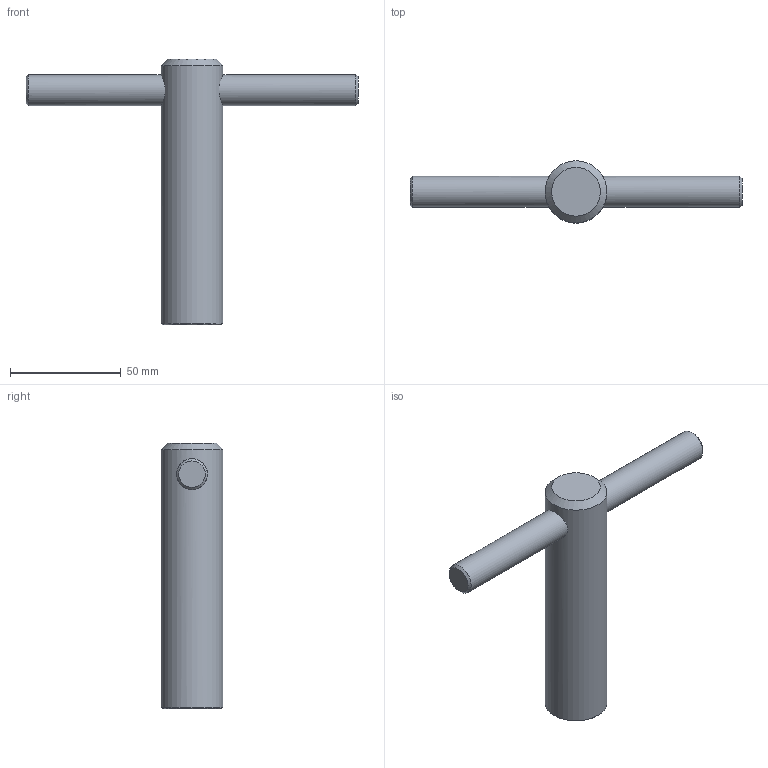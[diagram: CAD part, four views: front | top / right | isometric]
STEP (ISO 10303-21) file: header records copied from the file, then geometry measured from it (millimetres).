
FILE_DESCRIPTION(/* description */ (''),/* implementation_level */ '2;1');
FILE_NAME(/* name */ '\\DC01\Daten\CAD\Standard\Daten\3D-Datenbank\SWS\4 - 3D-CAD-Daten SWS 050-160\SWS125\step-Daten\ZG-VKS125-SW14.stp',/* time_stamp */ '2022-08-16T11:29:58+02:00',/* author */ ('mbecker'),/* organization */ ('GRIP GmbH'),/* preprocessor_version */ 'ST-DEVELOPER v17',/* originating_system */ 'Autodesk Inventor 2018',/* authorisation */ '');
FILE_SCHEMA (('AUTOMOTIVE_DESIGN { 1 0 10303 214 3 1 1 }'));
Length unit declared in the file: millimetre
Products named in the file (1): ZG-52192-SSW14
Bounding box: 150 x 28 x 120 mm (x, y, z)
Volume: 87665.2 mm3; surface area: 18237 mm2
Topology: 1 solids, 1 shells, 16 faces, 32 edges, 20 vertices
Faces by surface type: plane 9, cone 4, cylinder 3
Full cylindrical faces by diameter (mm): 14 x2, 28 x1
Entity records: 511 total; most frequent: CARTESIAN_POINT 137, DIRECTION 70, ORIENTED_EDGE 64, EDGE_CURVE 32, AXIS2_PLACEMENT_3D 25, LINE 20, VECTOR 20, VERTEX_POINT 20
